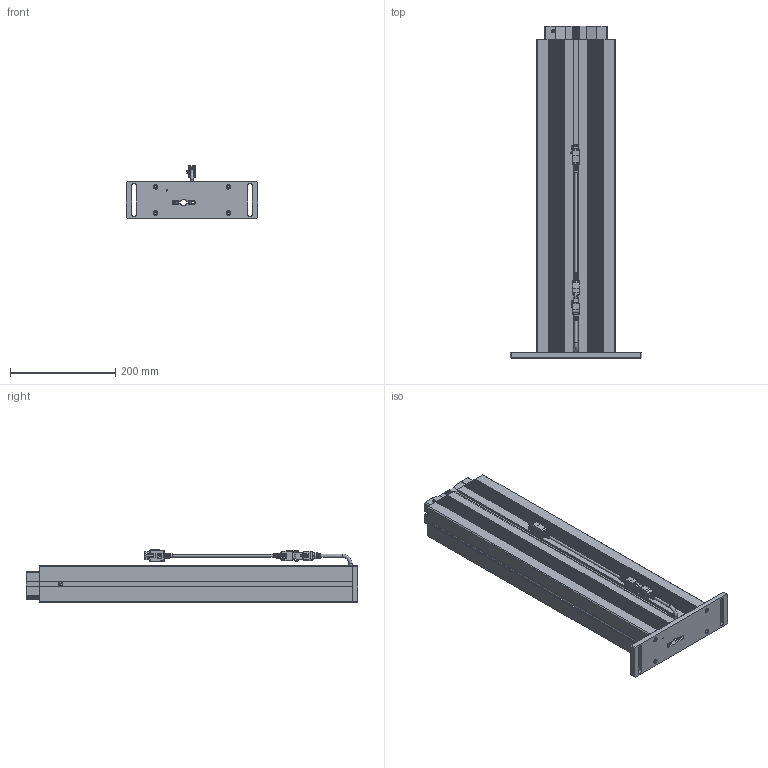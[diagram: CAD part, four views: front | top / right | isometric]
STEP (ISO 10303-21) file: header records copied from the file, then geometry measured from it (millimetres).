
FILE_DESCRIPTION(/* description */ ('Unknown'),/* implementation_level */ '2;1');
FILE_NAME(/* name */ '902.01024_00-Eingefahren',/* time_stamp */ '2022-01-26T14:17:20+01:00',/* author */ ('Unknown'),/* organization */ ('Unknown'),/* preprocessor_version */ 'ST-DEVELOPER v18.1',/* originating_system */ 'Solid Edge',/* authorisation */ 'Unknown');
FILE_SCHEMA (('AUTOMOTIVE_DESIGN {1 0 10303 214 3 1 1}'));
Products named in the file (12): 902.01024; 126.00138; 119.00312; 119.00311; 142.00166; 124.00201_oa_0; 142.00241; 110.00113_oa_1; 115.00200_oa_2; 124.00151; Kabel Motor Sx; 142.00343
Assembly tree (16 placements, depth 2):
  902.01024
    126.00138
    119.00312
    119.00311
    142.00166  x4
    124.00201_oa_0
    142.00241  x2
    110.00113_oa_1
    115.00200_oa_2
    124.00151
    Kabel Motor Sx
    142.00343  x2
Bounding box: 250 x 630 x 100.17 mm (x, y, z)
Volume: 2617089.9 mm3; surface area: 1273971.1 mm2
Topology: 13 solids, 13 shells, 3370 faces, 9568 edges, 6336 vertices
Faces by surface type: plane 1939, cylinder 1239, torus 101, bspline 73, cone 12, sphere 6
Full cylindrical faces by diameter (mm): 1.5 x6, 1.82 x6, 2.459 x1, 2.7 x6, 3.242 x2, 3.4 x1, 4 x4, 5 x5, 5.5 x4, 6 x3, 7 x2, 8 x2, 8.5 x4, 8.7 x4, 30 x2
Entity records: 128373 total; most frequent: CARTESIAN_POINT 23132, ORIENTED_EDGE 18662, DIRECTION 18138, EDGE_CURVE 9331, VERTEX_POINT 6220, LINE 6102, VECTOR 6102, AXIS2_PLACEMENT_3D 6018
